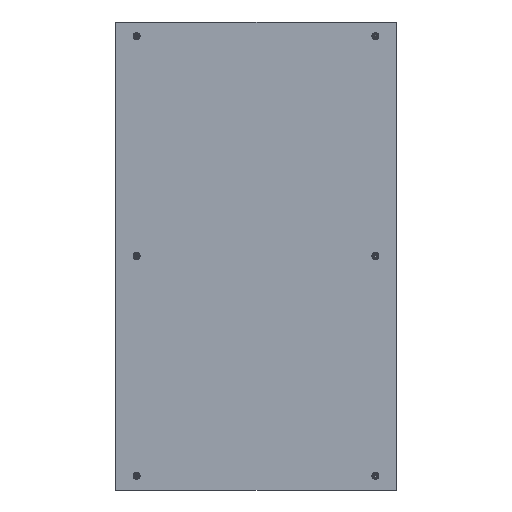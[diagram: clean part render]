
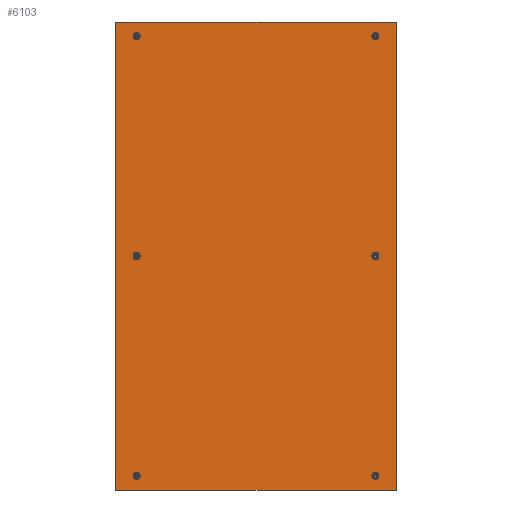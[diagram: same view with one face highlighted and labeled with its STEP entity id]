
A CAD part, left-side view. The second image highlights one B-rep face of the part: STEP entity #6103.
In plain terms, the highlighted planar face has unit normal (-1, 0, 0).
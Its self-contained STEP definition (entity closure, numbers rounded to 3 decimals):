
#533=CIRCLE('',#7997,5.125);
#535=CIRCLE('',#8000,5.125);
#537=CIRCLE('',#8003,5.125);
#539=CIRCLE('',#8006,5.125);
#541=CIRCLE('',#8009,5.125);
#542=CIRCLE('',#8042,5.125);
#1797=ORIENTED_EDGE('',*,*,#2841,.T.);
#1798=ORIENTED_EDGE('',*,*,#2842,.T.);
#1799=ORIENTED_EDGE('',*,*,#2843,.T.);
#1800=ORIENTED_EDGE('',*,*,#2844,.T.);
#1801=ORIENTED_EDGE('',*,*,#2723,.F.);
#1802=ORIENTED_EDGE('',*,*,#2725,.F.);
#1803=ORIENTED_EDGE('',*,*,#2727,.F.);
#1804=ORIENTED_EDGE('',*,*,#2729,.F.);
#1805=ORIENTED_EDGE('',*,*,#2731,.F.);
#1806=ORIENTED_EDGE('',*,*,#2845,.F.);
#2723=EDGE_CURVE('',#3357,#3357,#533,.T.);
#2725=EDGE_CURVE('',#3359,#3359,#535,.T.);
#2727=EDGE_CURVE('',#3361,#3361,#537,.T.);
#2729=EDGE_CURVE('',#3363,#3363,#539,.T.);
#2731=EDGE_CURVE('',#3365,#3365,#541,.T.);
#2841=EDGE_CURVE('',#3448,#3449,#4026,.T.);
#2842=EDGE_CURVE('',#3449,#3450,#4027,.T.);
#2843=EDGE_CURVE('',#3450,#3451,#4028,.T.);
#2844=EDGE_CURVE('',#3451,#3448,#4029,.T.);
#2845=EDGE_CURVE('',#3452,#3452,#542,.T.);
#3357=VERTEX_POINT('',#11137);
#3359=VERTEX_POINT('',#11142);
#3361=VERTEX_POINT('',#11147);
#3363=VERTEX_POINT('',#11152);
#3365=VERTEX_POINT('',#11157);
#3448=VERTEX_POINT('',#11382);
#3449=VERTEX_POINT('',#11383);
#3450=VERTEX_POINT('',#11385);
#3451=VERTEX_POINT('',#11387);
#3452=VERTEX_POINT('',#11390);
#4026=LINE('',#11381,#4606);
#4027=LINE('',#11384,#4607);
#4028=LINE('',#11386,#4608);
#4029=LINE('',#11388,#4609);
#4606=VECTOR('',#9553,1000.);
#4607=VECTOR('',#9554,1000.);
#4608=VECTOR('',#9555,1000.);
#4609=VECTOR('',#9556,1000.);
#5031=EDGE_LOOP('',(#1797,#1798,#1799,#1800));
#5032=EDGE_LOOP('',(#1801));
#5033=EDGE_LOOP('',(#1802));
#5034=EDGE_LOOP('',(#1803));
#5035=EDGE_LOOP('',(#1804));
#5036=EDGE_LOOP('',(#1805));
#5037=EDGE_LOOP('',(#1806));
#5477=FACE_BOUND('',#5031,.T.);
#5478=FACE_BOUND('',#5032,.T.);
#5479=FACE_BOUND('',#5033,.T.);
#5480=FACE_BOUND('',#5034,.T.);
#5481=FACE_BOUND('',#5035,.T.);
#5482=FACE_BOUND('',#5036,.T.);
#5483=FACE_BOUND('',#5037,.T.);
#5784=PLANE('',#8041);
#6103=ADVANCED_FACE('',(#5477,#5478,#5479,#5480,#5481,#5482,#5483),#5784,
 .T.);
#7997=AXIS2_PLACEMENT_3D('',#11136,#9354,#9355);
#8000=AXIS2_PLACEMENT_3D('',#11141,#9360,#9361);
#8003=AXIS2_PLACEMENT_3D('',#11146,#9366,#9367);
#8006=AXIS2_PLACEMENT_3D('',#11151,#9372,#9373);
#8009=AXIS2_PLACEMENT_3D('',#11156,#9378,#9379);
#8041=AXIS2_PLACEMENT_3D('',#11380,#9551,#9552);
#8042=AXIS2_PLACEMENT_3D('',#11389,#9557,#9558);
#9354=DIRECTION('',(-1.,0.,0.));
#9355=DIRECTION('',(0.,-1.,0.));
#9360=DIRECTION('',(-1.,0.,0.));
#9361=DIRECTION('',(0.,-1.,0.));
#9366=DIRECTION('',(-1.,0.,0.));
#9367=DIRECTION('',(0.,-1.,0.));
#9372=DIRECTION('',(-1.,0.,0.));
#9373=DIRECTION('',(0.,-1.,0.));
#9378=DIRECTION('',(-1.,0.,0.));
#9379=DIRECTION('',(0.,-1.,0.));
#9551=DIRECTION('',(-1.,0.,0.));
#9552=DIRECTION('',(0.,-1.,0.));
#9553=DIRECTION('',(0.,0.,-1.));
#9554=DIRECTION('',(0.,-1.,0.));
#9555=DIRECTION('',(0.,0.,1.));
#9556=DIRECTION('',(0.,1.,0.));
#9557=DIRECTION('',(-1.,0.,0.));
#9558=DIRECTION('',(0.,-1.,0.));
#11136=CARTESIAN_POINT('',(-1.5,255.,-470.));
#11137=CARTESIAN_POINT('',(-1.5,249.875,-470.));
#11141=CARTESIAN_POINT('',(-1.5,255.,0.));
#11142=CARTESIAN_POINT('',(-1.5,249.875,0.));
#11146=CARTESIAN_POINT('',(-1.5,255.,470.));
#11147=CARTESIAN_POINT('',(-1.5,249.875,470.));
#11151=CARTESIAN_POINT('',(-1.5,-255.,-470.));
#11152=CARTESIAN_POINT('',(-1.5,-260.125,-470.));
#11156=CARTESIAN_POINT('',(-1.5,-255.,0.));
#11157=CARTESIAN_POINT('',(-1.5,-260.125,0.));
#11380=CARTESIAN_POINT('',(-1.5,0.,0.));
#11381=CARTESIAN_POINT('',(-1.5,300.,0.));
#11382=CARTESIAN_POINT('',(-1.5,300.,500.));
#11383=CARTESIAN_POINT('',(-1.5,300.,-500.));
#11384=CARTESIAN_POINT('',(-1.5,0.,-500.));
#11385=CARTESIAN_POINT('',(-1.5,-300.,-500.));
#11386=CARTESIAN_POINT('',(-1.5,-300.,0.));
#11387=CARTESIAN_POINT('',(-1.5,-300.,500.));
#11388=CARTESIAN_POINT('',(-1.5,0.,500.));
#11389=CARTESIAN_POINT('',(-1.5,-255.,470.));
#11390=CARTESIAN_POINT('',(-1.5,-260.125,470.));
